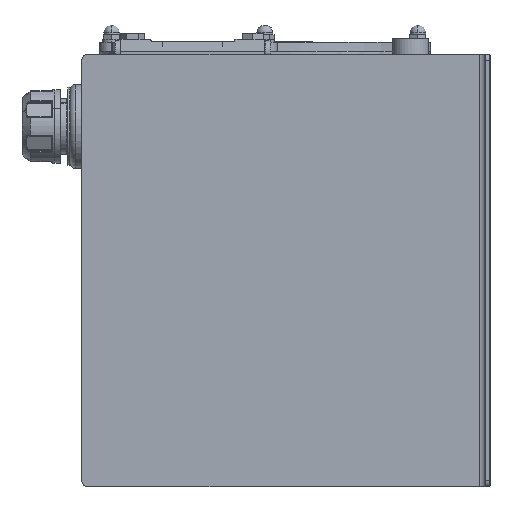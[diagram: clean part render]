
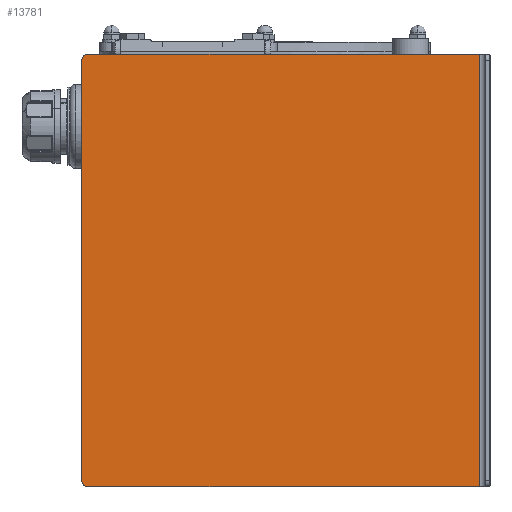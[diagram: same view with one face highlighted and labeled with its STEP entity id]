
A CAD part, left-side view. The second image highlights one B-rep face of the part: STEP entity #13781.
In plain terms, the highlighted planar face has unit normal (-1, 0, 0) as drawn and (0, 0, 1) by its records, which use the part's own axes.
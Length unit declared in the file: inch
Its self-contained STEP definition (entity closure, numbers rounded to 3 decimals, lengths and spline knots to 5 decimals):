
#284 = LINE ( 'NONE', #29264, #30730 ) ;
#540 = ORIENTED_EDGE ( 'NONE', *, *, #25271, .T. ) ;
#572 = LINE ( 'NONE', #15384, #25659 ) ;
#1184 = ORIENTED_EDGE ( 'NONE', *, *, #17206, .T. ) ;
#1213 = DIRECTION ( 'NONE',  ( 0., 1., 0. ) ) ;
#1602 = EDGE_LOOP ( 'NONE', ( #540, #29754, #4752, #1184, #7821, #4510 ) ) ;
#2256 = DIRECTION ( 'NONE',  ( 0., 0., 1. ) ) ;
#3945 = EDGE_CURVE ( 'NONE', #23536, #5456, #572, .T. ) ;
#4510 = ORIENTED_EDGE ( 'NONE', *, *, #17910, .F. ) ;
#4752 = ORIENTED_EDGE ( 'NONE', *, *, #3945, .T. ) ;
#4981 = DIRECTION ( 'NONE',  ( -1., 0., 0. ) ) ;
#5456 = VERTEX_POINT ( 'NONE', #29083 ) ;
#6482 = CIRCLE ( 'NONE', #13757, 0.25 ) ;
#7525 = DIRECTION ( 'NONE',  ( -1., 0., 0. ) ) ;
#7684 = VECTOR ( 'NONE', #22973, 39.37008 ) ;
#7821 = ORIENTED_EDGE ( 'NONE', *, *, #31998, .T. ) ;
#8384 = CARTESIAN_POINT ( 'NONE',  ( -9., 8.25, 0. ) ) ;
#9821 = PLANE ( 'NONE',  #12827 ) ;
#9968 = CIRCLE ( 'NONE', #16306, 0.25 ) ;
#10689 = DIRECTION ( 'NONE',  ( -1., 0., 0. ) ) ;
#11178 = CARTESIAN_POINT ( 'NONE',  ( 9., 8.25, 0. ) ) ;
#12374 = CARTESIAN_POINT ( 'NONE',  ( 8.75, 8.5, 0. ) ) ;
#12827 = AXIS2_PLACEMENT_3D ( 'NONE', #28518, #15095, #7525 ) ;
#13757 = AXIS2_PLACEMENT_3D ( 'NONE', #25763, #2256, #15236 ) ;
#13781 = ADVANCED_FACE ( 'NONE', ( #14473 ), #9821, .F. ) ;
#13799 = EDGE_CURVE ( 'NONE', #33326, #23536, #9968, .T. ) ;
#14473 = FACE_OUTER_BOUND ( 'NONE', #1602, .T. ) ;
#15095 = DIRECTION ( 'NONE',  ( 0., 0., -1. ) ) ;
#15236 = DIRECTION ( 'NONE',  ( -1., 0., 0. ) ) ;
#15343 = VERTEX_POINT ( 'NONE', #8384 ) ;
#15384 = CARTESIAN_POINT ( 'NONE',  ( -9., 8.5, 0. ) ) ;
#16306 = AXIS2_PLACEMENT_3D ( 'NONE', #25744, #33654, #4981 ) ;
#17206 = EDGE_CURVE ( 'NONE', #5456, #15343, #6482, .T. ) ;
#17910 = EDGE_CURVE ( 'NONE', #32244, #32434, #284, .T. ) ;
#19630 = CARTESIAN_POINT ( 'NONE',  ( 9., -8.0707, 0. ) ) ;
#21082 = VECTOR ( 'NONE', #1213, 39.37008 ) ;
#22600 = CARTESIAN_POINT ( 'NONE',  ( -9., -8.0707, 0. ) ) ;
#22973 = DIRECTION ( 'NONE',  ( 0., -1., 0. ) ) ;
#23536 = VERTEX_POINT ( 'NONE', #12374 ) ;
#25271 = EDGE_CURVE ( 'NONE', #32244, #33326, #32201, .T. ) ;
#25659 = VECTOR ( 'NONE', #31296, 39.37008 ) ;
#25744 = CARTESIAN_POINT ( 'NONE',  ( 8.75, 8.25, 0. ) ) ;
#25763 = CARTESIAN_POINT ( 'NONE',  ( -8.75, 8.25, 0. ) ) ;
#28271 = CARTESIAN_POINT ( 'NONE',  ( -9., -8.5, 0. ) ) ;
#28518 = CARTESIAN_POINT ( 'NONE',  ( 0., 0., 0. ) ) ;
#29083 = CARTESIAN_POINT ( 'NONE',  ( -8.75, 8.5, 0. ) ) ;
#29264 = CARTESIAN_POINT ( 'NONE',  ( 9., -8.0707, 0. ) ) ;
#29754 = ORIENTED_EDGE ( 'NONE', *, *, #13799, .T. ) ;
#30730 = VECTOR ( 'NONE', #10689, 39.37008 ) ;
#31296 = DIRECTION ( 'NONE',  ( -1., 0., 0. ) ) ;
#31998 = EDGE_CURVE ( 'NONE', #15343, #32434, #33913, .T. ) ;
#32201 = LINE ( 'NONE', #32646, #21082 ) ;
#32244 = VERTEX_POINT ( 'NONE', #19630 ) ;
#32434 = VERTEX_POINT ( 'NONE', #22600 ) ;
#32646 = CARTESIAN_POINT ( 'NONE',  ( 9., -8.5, 0. ) ) ;
#33326 = VERTEX_POINT ( 'NONE', #11178 ) ;
#33654 = DIRECTION ( 'NONE',  ( 0., 0., 1. ) ) ;
#33913 = LINE ( 'NONE', #28271, #7684 ) ;
